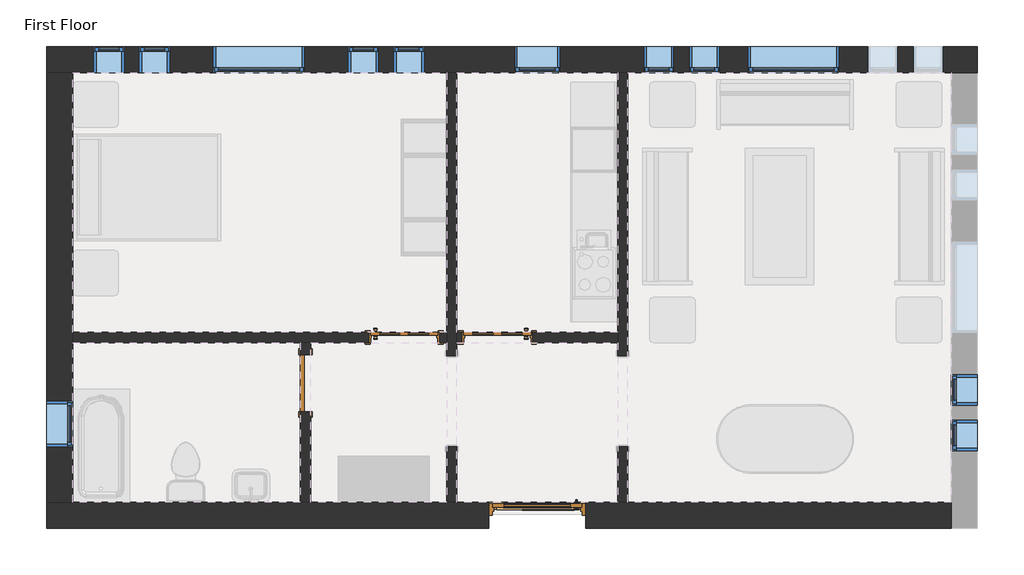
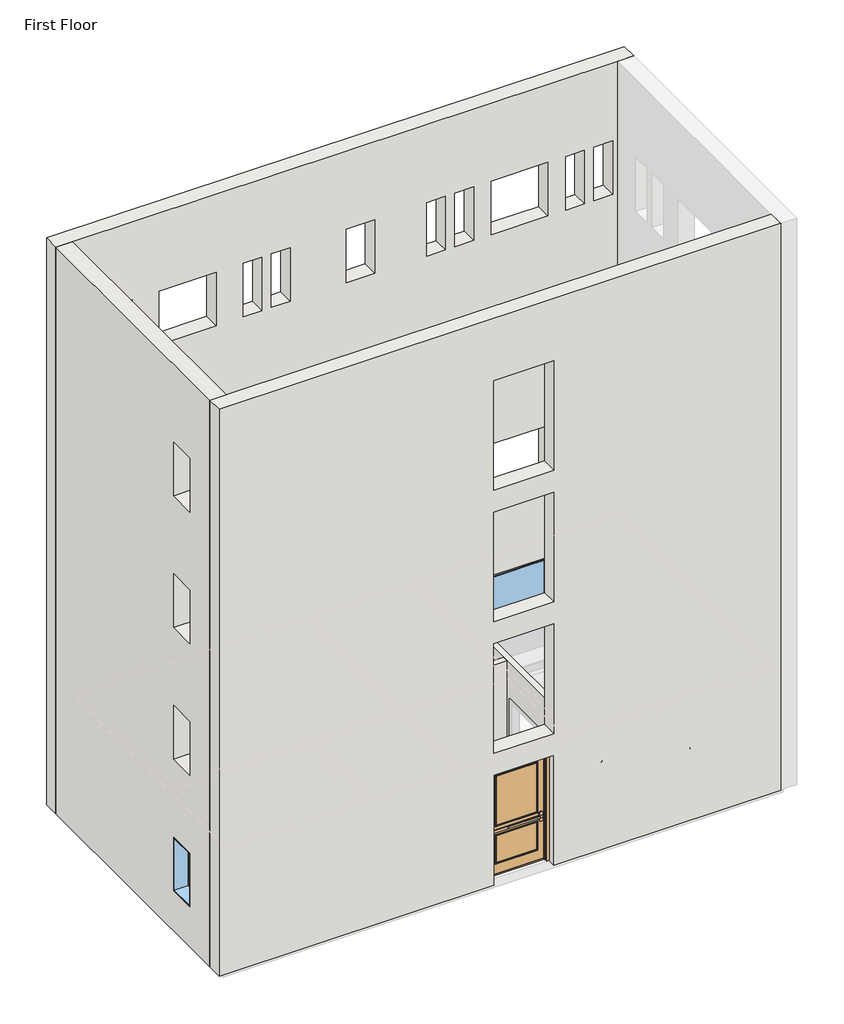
# One storey, part 1 of 3: 12 windows, 7 walls, 4 doors.
"""IFC4 building model written with IfcOpenShell, lengths in millimetres."""

from ifc_helpers import new_model, si_unit, frame, origin, place, context, project, spatial, polyline, outline, extrude, faceted_brep, transform, mapped, element, save
from components import m_door_exterior_single_two_lite_1200_x_2400mm_6ab66c40, m_door_interior_single_4_panel_wood_900_x_2100mm_1f4ed184, m_door_interior_single_4_panel_wood_900_x_2100mm_40914eee, m_single_flush_0762_x_2134mm_0d89e411, m_fixed_0406_x_1220mm_57fee329, m_fixed_0406_x_1220mm_85c28f40, m_fixed_0610_x_1220mm_2c28ef1d, m_fixed_1220_x_1220_e08ff7af

model = new_model("IFC4")

# Units and contexts
model_context = context("Model", 3, world=origin())
ifc_project = project(units=[si_unit("LENGTHUNIT", "METRE", prefix="MILLI")], contexts=[model_context])

# Site, building, storey
site = spatial("IfcSite", under=ifc_project)
building = spatial("IfcBuilding", under=site)
storey = spatial("IfcBuildingStorey", under=building, Name="First Floor", Elevation=0.0)

# Doors
placement = place(None, origin())
m_door_exterior_single_two_lite_1200_x_2400mm_shape = m_door_exterior_single_two_lite_1200_x_2400mm_6ab66c40(model_context)
element("IfcDoor", 1, ObjectType="M_Door-Exterior-Single-Two_Lite : 1200 x 2400mm", at=placement, inside=storey, context=model_context, shape_type="MappedRepresentation", body=[
    mapped(m_door_exterior_single_two_lite_1200_x_2400mm_shape, transform((-11984.0930086, 7923.7170483, 0.0), x_axis=(-1.0, 0.0, 0.0), y_axis=(0.0, -1.0, 0.0), z_axis=(0.0, 0.0, 1.0))),
])
m_door_interior_single_4_panel_wood_900_x_2100mm_shape = m_door_interior_single_4_panel_wood_900_x_2100mm_1f4ed184(model_context)
element("IfcDoor", 2, ObjectType="M_Door-Interior-Single-4_Panel-Wood : 900 x 2100mm", at=placement, inside=storey, context=model_context, shape_type="MappedRepresentation", body=[
    mapped(m_door_interior_single_4_panel_wood_900_x_2100mm_shape, transform((-12518.0930086, 10309.9920483, 0.0), x_axis=(-1.0, 0.0, 0.0), y_axis=(0.0, -1.0, 0.0), z_axis=(0.0, 0.0, 1.0))),
])
m_door_interior_single_4_panel_wood_900_x_2100mm_2_shape = m_door_interior_single_4_panel_wood_900_x_2100mm_40914eee(model_context)
element("IfcDoor", 3, ObjectType="M_Door-Interior-Single-4_Panel-Wood : 900 x 2100mm", at=placement, inside=storey, context=model_context, shape_type="MappedRepresentation", body=[
    mapped(m_door_interior_single_4_panel_wood_900_x_2100mm_2_shape, transform((-13766.0930086, 10309.9920483, 0.0), x_axis=(1.0, 0.0, 0.0), y_axis=(0.0, 1.0, 0.0), z_axis=(0.0, 0.0, 1.0))),
])
m_single_flush_0762_x_2134mm_shape = m_single_flush_0762_x_2134mm_0d89e411(model_context)
element("IfcDoor", 4, ObjectType="M_Single-Flush : 0762 x 2134mm", at=placement, inside=storey, context=model_context, shape_type="MappedRepresentation", body=[
    mapped(m_single_flush_0762_x_2134mm_shape, transform((-15086.0930086, 9696.8170483, 0.0), x_axis=(0.0, 1.0, 0.0), y_axis=(-1.0, 0.0, 0.0), z_axis=(0.0, 0.0, 1.0))),
])

# Walls
element("IfcWall", 5, ObjectType="Exterior - Brick on Mtl. Stud", at=placement, inside=storey, context=model_context, shape_type="Brep", body=[
    faceted_brep([(-18551.8430086, 13851.0670483, 0.0), (-18366.8430086, 13851.0670483, 0.0), (-18201.8430086, 13851.0670483, 0.0), (-13194.8430086, 13851.0670483, 0.0), (-13059.3430086, 13851.0670483, 0.0), (-10908.8430086, 13851.0670483, 0.0), (-10773.3430086, 13851.0670483, 0.0), (-6444.0930086, 13851.0670483, 0.0), (-6279.0930086, 13851.0670483, 0.0), (-6094.0930086, 13851.0670483, 0.0), (-6094.0930086, 13851.0670483, 12915.0), (-6444.0930086, 13851.0670483, 12915.0), (-18201.8430086, 13851.0670483, 12915.0), (-18551.8430086, 13851.0670483, 12915.0), (-11679.0930086, 13851.0670483, 915.0), (-12289.0930086, 13851.0670483, 915.0), (-12289.0930086, 13851.0670483, 2135.0), (-11679.0930086, 13851.0670483, 2135.0), (-15099.8430086, 13851.0670483, 915.0), (-16319.8430086, 13851.0670483, 915.0), (-16319.8430086, 13851.0670483, 2135.0), (-15099.8430086, 13851.0670483, 2135.0), (-7945.0930086, 13851.0670483, 915.0), (-9165.0930086, 13851.0670483, 915.0), (-9165.0930086, 13851.0670483, 2135.0), (-7945.0930086, 13851.0670483, 2135.0), (-17919.4430086, 13851.0670483, 915.0), (-17919.4430086, 13851.0670483, 2135.0), (-17513.4430086, 13851.0670483, 2135.0), (-17513.4430086, 13851.0670483, 915.0), (-17309.8430086, 13851.0670483, 915.0), (-17309.8430086, 13851.0670483, 2135.0), (-16903.8430086, 13851.0670483, 2135.0), (-16903.8430086, 13851.0670483, 915.0), (-14109.8430086, 13851.0670483, 915.0), (-14515.8430086, 13851.0670483, 915.0), (-14515.8430086, 13851.0670483, 2135.0), (-14109.8430086, 13851.0670483, 2135.0), (-13500.2430086, 13851.0670483, 915.0), (-13906.2430086, 13851.0670483, 915.0), (-13906.2430086, 13851.0670483, 2135.0), (-13500.2430086, 13851.0670483, 2135.0), (-10155.0930086, 13851.0670483, 915.0), (-10561.0930086, 13851.0670483, 915.0), (-10561.0930086, 13851.0670483, 2135.0), (-10155.0930086, 13851.0670483, 2135.0), (-9545.4930086, 13851.0670483, 915.0), (-9951.4930086, 13851.0670483, 915.0), (-9951.4930086, 13851.0670483, 2135.0), (-9545.4930086, 13851.0670483, 2135.0), (-6955.0930086, 13851.0670483, 915.0), (-6955.0930086, 13851.0670483, 2135.0), (-6549.0930086, 13851.0670483, 2135.0), (-6549.0930086, 13851.0670483, 915.0), (-7564.6930086, 13851.0670483, 915.0), (-7564.6930086, 13851.0670483, 2135.0), (-7158.6930086, 13851.0670483, 2135.0), (-7158.6930086, 13851.0670483, 915.0), (-6955.0930086, 13851.0670483, 9915.0), (-6955.0930086, 13851.0670483, 11135.0), (-6549.0930086, 13851.0670483, 11135.0), (-6549.0930086, 13851.0670483, 9915.0), (-7564.6930086, 13851.0670483, 9915.0), (-7564.6930086, 13851.0670483, 11135.0), (-7158.6930086, 13851.0670483, 11135.0), (-7158.6930086, 13851.0670483, 9915.0), (-10155.0930086, 13851.0670483, 9915.0), (-10561.0930086, 13851.0670483, 9915.0), (-10561.0930086, 13851.0670483, 11135.0), (-10155.0930086, 13851.0670483, 11135.0), (-9545.4930086, 13851.0670483, 9915.0), (-9951.4930086, 13851.0670483, 9915.0), (-9951.4930086, 13851.0670483, 11135.0), (-9545.4930086, 13851.0670483, 11135.0), (-14109.8430086, 13851.0670483, 9915.0), (-14515.8430086, 13851.0670483, 9915.0), (-14515.8430086, 13851.0670483, 11135.0), (-14109.8430086, 13851.0670483, 11135.0), (-13500.2430086, 13851.0670483, 9915.0), (-13906.2430086, 13851.0670483, 9915.0), (-13906.2430086, 13851.0670483, 11135.0), (-13500.2430086, 13851.0670483, 11135.0), (-17309.8430086, 13851.0670483, 9915.0), (-17309.8430086, 13851.0670483, 11135.0), (-16903.8430086, 13851.0670483, 11135.0), (-16903.8430086, 13851.0670483, 9915.0), (-17919.4430086, 13851.0670483, 9915.0), (-17919.4430086, 13851.0670483, 11135.0), (-17513.4430086, 13851.0670483, 11135.0), (-17513.4430086, 13851.0670483, 9915.0), (-7945.0930086, 13851.0670483, 9915.0), (-9165.0930086, 13851.0670483, 9915.0), (-9165.0930086, 13851.0670483, 11135.0), (-7945.0930086, 13851.0670483, 11135.0), (-15099.8430086, 13851.0670483, 9915.0), (-16319.8430086, 13851.0670483, 9915.0), (-16319.8430086, 13851.0670483, 11135.0), (-15099.8430086, 13851.0670483, 11135.0), (-11679.0930086, 13851.0670483, 9915.0), (-12289.0930086, 13851.0670483, 9915.0), (-12289.0930086, 13851.0670483, 11135.0), (-11679.0930086, 13851.0670483, 11135.0), (-6955.0930086, 13851.0670483, 3915.0), (-6955.0930086, 13851.0670483, 5135.0), (-6549.0930086, 13851.0670483, 5135.0), (-6549.0930086, 13851.0670483, 3915.0), (-7564.6930086, 13851.0670483, 3915.0), (-7564.6930086, 13851.0670483, 5135.0), (-7158.6930086, 13851.0670483, 5135.0), (-7158.6930086, 13851.0670483, 3915.0), (-10155.0930086, 13851.0670483, 3915.0), (-10561.0930086, 13851.0670483, 3915.0), (-10561.0930086, 13851.0670483, 5135.0), (-10155.0930086, 13851.0670483, 5135.0), (-9545.4930086, 13851.0670483, 3915.0), (-9951.4930086, 13851.0670483, 3915.0), (-9951.4930086, 13851.0670483, 5135.0), (-9545.4930086, 13851.0670483, 5135.0), (-14109.8430086, 13851.0670483, 3915.0), (-14515.8430086, 13851.0670483, 3915.0), (-14515.8430086, 13851.0670483, 5135.0), (-14109.8430086, 13851.0670483, 5135.0), (-13500.2430086, 13851.0670483, 3915.0), (-13906.2430086, 13851.0670483, 3915.0), (-13906.2430086, 13851.0670483, 5135.0), (-13500.2430086, 13851.0670483, 5135.0), (-17309.8430086, 13851.0670483, 3915.0), (-17309.8430086, 13851.0670483, 5135.0), (-16903.8430086, 13851.0670483, 5135.0), (-16903.8430086, 13851.0670483, 3915.0), (-17919.4430086, 13851.0670483, 3915.0), (-17919.4430086, 13851.0670483, 5135.0), (-17513.4430086, 13851.0670483, 5135.0), (-17513.4430086, 13851.0670483, 3915.0), (-7945.0930086, 13851.0670483, 3915.0), (-9165.0930086, 13851.0670483, 3915.0), (-9165.0930086, 13851.0670483, 5135.0), (-7945.0930086, 13851.0670483, 5135.0), (-15099.8430086, 13851.0670483, 3915.0), (-16319.8430086, 13851.0670483, 3915.0), (-16319.8430086, 13851.0670483, 5135.0), (-15099.8430086, 13851.0670483, 5135.0), (-11679.0930086, 13851.0670483, 3915.0), (-12289.0930086, 13851.0670483, 3915.0), (-12289.0930086, 13851.0670483, 5135.0), (-11679.0930086, 13851.0670483, 5135.0), (-6955.0930086, 13851.0670483, 6915.0), (-6955.0930086, 13851.0670483, 8135.0), (-6549.0930086, 13851.0670483, 8135.0), (-6549.0930086, 13851.0670483, 6915.0), (-7564.6930086, 13851.0670483, 6915.0), (-7564.6930086, 13851.0670483, 8135.0), (-7158.6930086, 13851.0670483, 8135.0), (-7158.6930086, 13851.0670483, 6915.0), (-10155.0930086, 13851.0670483, 6915.0), (-10561.0930086, 13851.0670483, 6915.0), (-10561.0930086, 13851.0670483, 8135.0), (-10155.0930086, 13851.0670483, 8135.0), (-9545.4930086, 13851.0670483, 6915.0), (-9951.4930086, 13851.0670483, 6915.0), (-9951.4930086, 13851.0670483, 8135.0), (-9545.4930086, 13851.0670483, 8135.0), (-14109.8430086, 13851.0670483, 6915.0), (-14515.8430086, 13851.0670483, 6915.0), (-14515.8430086, 13851.0670483, 8135.0), (-14109.8430086, 13851.0670483, 8135.0), (-13500.2430086, 13851.0670483, 6915.0), (-13906.2430086, 13851.0670483, 6915.0), (-13906.2430086, 13851.0670483, 8135.0), (-13500.2430086, 13851.0670483, 8135.0), (-17309.8430086, 13851.0670483, 6915.0), (-17309.8430086, 13851.0670483, 8135.0), (-16903.8430086, 13851.0670483, 8135.0), (-16903.8430086, 13851.0670483, 6915.0), (-17919.4430086, 13851.0670483, 6915.0), (-17919.4430086, 13851.0670483, 8135.0), (-17513.4430086, 13851.0670483, 8135.0), (-17513.4430086, 13851.0670483, 6915.0), (-7945.0930086, 13851.0670483, 6915.0), (-9165.0930086, 13851.0670483, 6915.0), (-9165.0930086, 13851.0670483, 8135.0), (-7945.0930086, 13851.0670483, 8135.0), (-15099.8430086, 13851.0670483, 6915.0), (-16319.8430086, 13851.0670483, 6915.0), (-16319.8430086, 13851.0670483, 8135.0), (-15099.8430086, 13851.0670483, 8135.0), (-11679.0930086, 13851.0670483, 6915.0), (-12289.0930086, 13851.0670483, 6915.0), (-12289.0930086, 13851.0670483, 8135.0), (-11679.0930086, 13851.0670483, 8135.0), (-18551.8430086, 14201.0670483, 0.0), (-18551.8430086, 14201.0670483, 12915.0), (-6094.0930086, 14201.0670483, 12915.0), (-6094.0930086, 14201.0670483, 0.0), (-6279.0930086, 14201.0670483, 0.0), (-18366.8430086, 14201.0670483, 0.0), (-11679.0930086, 14201.0670483, 915.0), (-11679.0930086, 14201.0670483, 2135.0), (-12289.0930086, 14201.0670483, 2135.0), (-12289.0930086, 14201.0670483, 915.0), (-15099.8430086, 14201.0670483, 915.0), (-15099.8430086, 14201.0670483, 2135.0), (-16319.8430086, 14201.0670483, 2135.0), (-16319.8430086, 14201.0670483, 915.0), (-7945.0930086, 14201.0670483, 915.0), (-7945.0930086, 14201.0670483, 2135.0), (-9165.0930086, 14201.0670483, 2135.0), (-9165.0930086, 14201.0670483, 915.0), (-17919.4430086, 14201.0670483, 915.0), (-17513.4430086, 14201.0670483, 915.0), (-17513.4430086, 14201.0670483, 2135.0), (-17919.4430086, 14201.0670483, 2135.0), (-17309.8430086, 14201.0670483, 915.0), (-16903.8430086, 14201.0670483, 915.0), (-16903.8430086, 14201.0670483, 2135.0), (-17309.8430086, 14201.0670483, 2135.0), (-14109.8430086, 14201.0670483, 915.0), (-14109.8430086, 14201.0670483, 2135.0), (-14515.8430086, 14201.0670483, 2135.0), (-14515.8430086, 14201.0670483, 915.0), (-13500.2430086, 14201.0670483, 915.0), (-13500.2430086, 14201.0670483, 2135.0), (-13906.2430086, 14201.0670483, 2135.0), (-13906.2430086, 14201.0670483, 915.0), (-10155.0930086, 14201.0670483, 915.0), (-10155.0930086, 14201.0670483, 2135.0), (-10561.0930086, 14201.0670483, 2135.0), (-10561.0930086, 14201.0670483, 915.0), (-9545.4930086, 14201.0670483, 915.0), (-9545.4930086, 14201.0670483, 2135.0), (-9951.4930086, 14201.0670483, 2135.0), (-9951.4930086, 14201.0670483, 915.0), (-6955.0930086, 14201.0670483, 915.0), (-6549.0930086, 14201.0670483, 915.0), (-6549.0930086, 14201.0670483, 2135.0), (-6955.0930086, 14201.0670483, 2135.0), (-7564.6930086, 14201.0670483, 915.0), (-7158.6930086, 14201.0670483, 915.0), (-7158.6930086, 14201.0670483, 2135.0), (-7564.6930086, 14201.0670483, 2135.0), (-6955.0930086, 14201.0670483, 9915.0), (-6549.0930086, 14201.0670483, 9915.0), (-6549.0930086, 14201.0670483, 11135.0), (-6955.0930086, 14201.0670483, 11135.0), (-7564.6930086, 14201.0670483, 9915.0), (-7158.6930086, 14201.0670483, 9915.0), (-7158.6930086, 14201.0670483, 11135.0), (-7564.6930086, 14201.0670483, 11135.0), (-10155.0930086, 14201.0670483, 9915.0), (-10155.0930086, 14201.0670483, 11135.0), (-10561.0930086, 14201.0670483, 11135.0), (-10561.0930086, 14201.0670483, 9915.0), (-9545.4930086, 14201.0670483, 9915.0), (-9545.4930086, 14201.0670483, 11135.0), (-9951.4930086, 14201.0670483, 11135.0), (-9951.4930086, 14201.0670483, 9915.0), (-14109.8430086, 14201.0670483, 9915.0), (-14109.8430086, 14201.0670483, 11135.0), (-14515.8430086, 14201.0670483, 11135.0), (-14515.8430086, 14201.0670483, 9915.0), (-13500.2430086, 14201.0670483, 9915.0), (-13500.2430086, 14201.0670483, 11135.0), (-13906.2430086, 14201.0670483, 11135.0), (-13906.2430086, 14201.0670483, 9915.0), (-17309.8430086, 14201.0670483, 9915.0), (-16903.8430086, 14201.0670483, 9915.0), (-16903.8430086, 14201.0670483, 11135.0), (-17309.8430086, 14201.0670483, 11135.0), (-17919.4430086, 14201.0670483, 9915.0), (-17513.4430086, 14201.0670483, 9915.0), (-17513.4430086, 14201.0670483, 11135.0), (-17919.4430086, 14201.0670483, 11135.0), (-7945.0930086, 14201.0670483, 9915.0), (-7945.0930086, 14201.0670483, 11135.0), (-9165.0930086, 14201.0670483, 11135.0), (-9165.0930086, 14201.0670483, 9915.0), (-15099.8430086, 14201.0670483, 9915.0), (-15099.8430086, 14201.0670483, 11135.0), (-16319.8430086, 14201.0670483, 11135.0), (-16319.8430086, 14201.0670483, 9915.0), (-11679.0930086, 14201.0670483, 9915.0), (-11679.0930086, 14201.0670483, 11135.0), (-12289.0930086, 14201.0670483, 11135.0), (-12289.0930086, 14201.0670483, 9915.0), (-6955.0930086, 14201.0670483, 3915.0), (-6549.0930086, 14201.0670483, 3915.0), (-6549.0930086, 14201.0670483, 5135.0), (-6955.0930086, 14201.0670483, 5135.0), (-7564.6930086, 14201.0670483, 3915.0), (-7158.6930086, 14201.0670483, 3915.0), (-7158.6930086, 14201.0670483, 5135.0), (-7564.6930086, 14201.0670483, 5135.0), (-10155.0930086, 14201.0670483, 3915.0), (-10155.0930086, 14201.0670483, 5135.0), (-10561.0930086, 14201.0670483, 5135.0), (-10561.0930086, 14201.0670483, 3915.0), (-9545.4930086, 14201.0670483, 3915.0), (-9545.4930086, 14201.0670483, 5135.0), (-9951.4930086, 14201.0670483, 5135.0), (-9951.4930086, 14201.0670483, 3915.0), (-14109.8430086, 14201.0670483, 3915.0), (-14109.8430086, 14201.0670483, 5135.0), (-14515.8430086, 14201.0670483, 5135.0), (-14515.8430086, 14201.0670483, 3915.0), (-13500.2430086, 14201.0670483, 3915.0), (-13500.2430086, 14201.0670483, 5135.0), (-13906.2430086, 14201.0670483, 5135.0), (-13906.2430086, 14201.0670483, 3915.0), (-17309.8430086, 14201.0670483, 3915.0), (-16903.8430086, 14201.0670483, 3915.0), (-16903.8430086, 14201.0670483, 5135.0), (-17309.8430086, 14201.0670483, 5135.0), (-17919.4430086, 14201.0670483, 3915.0), (-17513.4430086, 14201.0670483, 3915.0), (-17513.4430086, 14201.0670483, 5135.0), (-17919.4430086, 14201.0670483, 5135.0), (-7945.0930086, 14201.0670483, 3915.0), (-7945.0930086, 14201.0670483, 5135.0), (-9165.0930086, 14201.0670483, 5135.0), (-9165.0930086, 14201.0670483, 3915.0), (-15099.8430086, 14201.0670483, 3915.0), (-15099.8430086, 14201.0670483, 5135.0), (-16319.8430086, 14201.0670483, 5135.0), (-16319.8430086, 14201.0670483, 3915.0), (-11679.0930086, 14201.0670483, 3915.0), (-11679.0930086, 14201.0670483, 5135.0), (-12289.0930086, 14201.0670483, 5135.0), (-12289.0930086, 14201.0670483, 3915.0), (-6955.0930086, 14201.0670483, 6915.0), (-6549.0930086, 14201.0670483, 6915.0), (-6549.0930086, 14201.0670483, 8135.0), (-6955.0930086, 14201.0670483, 8135.0), (-7564.6930086, 14201.0670483, 6915.0), (-7158.6930086, 14201.0670483, 6915.0), (-7158.6930086, 14201.0670483, 8135.0), (-7564.6930086, 14201.0670483, 8135.0), (-10155.0930086, 14201.0670483, 6915.0), (-10155.0930086, 14201.0670483, 8135.0), (-10561.0930086, 14201.0670483, 8135.0), (-10561.0930086, 14201.0670483, 6915.0), (-9545.4930086, 14201.0670483, 6915.0), (-9545.4930086, 14201.0670483, 8135.0), (-9951.4930086, 14201.0670483, 8135.0), (-9951.4930086, 14201.0670483, 6915.0), (-14109.8430086, 14201.0670483, 6915.0), (-14109.8430086, 14201.0670483, 8135.0), (-14515.8430086, 14201.0670483, 8135.0), (-14515.8430086, 14201.0670483, 6915.0), (-13500.2430086, 14201.0670483, 6915.0), (-13500.2430086, 14201.0670483, 8135.0), (-13906.2430086, 14201.0670483, 8135.0), (-13906.2430086, 14201.0670483, 6915.0), (-17309.8430086, 14201.0670483, 6915.0), (-16903.8430086, 14201.0670483, 6915.0), (-16903.8430086, 14201.0670483, 8135.0), (-17309.8430086, 14201.0670483, 8135.0), (-17919.4430086, 14201.0670483, 6915.0), (-17513.4430086, 14201.0670483, 6915.0), (-17513.4430086, 14201.0670483, 8135.0), (-17919.4430086, 14201.0670483, 8135.0), (-7945.0930086, 14201.0670483, 6915.0), (-7945.0930086, 14201.0670483, 8135.0), (-9165.0930086, 14201.0670483, 8135.0), (-9165.0930086, 14201.0670483, 6915.0), (-15099.8430086, 14201.0670483, 6915.0), (-15099.8430086, 14201.0670483, 8135.0), (-16319.8430086, 14201.0670483, 8135.0), (-16319.8430086, 14201.0670483, 6915.0), (-11679.0930086, 14201.0670483, 6915.0), (-11679.0930086, 14201.0670483, 8135.0), (-12289.0930086, 14201.0670483, 8135.0), (-12289.0930086, 14201.0670483, 6915.0), (-6094.0930086, 14016.0670483, 0.0), (-18551.8430086, 14016.0670483, 0.0), (-18366.8430086, 14016.0670483, 0.0), (-6279.0930086, 14016.0670483, 0.0)], [[[0, 1, 2, 3, 4, 5, 6, 7, 8, 9, 10, 11, 12, 13], [14, 15, 16, 17], [18, 19, 20, 21], [22, 23, 24, 25], [26, 27, 28, 29], [30, 31, 32, 33], [34, 35, 36, 37], [38, 39, 40, 41], [42, 43, 44, 45], [46, 47, 48, 49], [50, 51, 52, 53], [54, 55, 56, 57], [58, 59, 60, 61], [62, 63, 64, 65], [66, 67, 68, 69], [70, 71, 72, 73], [74, 75, 76, 77], [78, 79, 80, 81], [82, 83, 84, 85], [86, 87, 88, 89], [90, 91, 92, 93], [94, 95, 96, 97], [98, 99, 100, 101], [102, 103, 104, 105], [106, 107, 108, 109], [110, 111, 112, 113], [114, 115, 116, 117], [118, 119, 120, 121], [122, 123, 124, 125], [126, 127, 128, 129], [130, 131, 132, 133], [134, 135, 136, 137], [138, 139, 140, 141], [142, 143, 144, 145], [146, 147, 148, 149], [150, 151, 152, 153], [154, 155, 156, 157], [158, 159, 160, 161], [162, 163, 164, 165], [166, 167, 168, 169], [170, 171, 172, 173], [174, 175, 176, 177], [178, 179, 180, 181], [182, 183, 184, 185], [186, 187, 188, 189]], [[190, 191, 192, 193, 194, 195], [196, 197, 198, 199], [200, 201, 202, 203], [204, 205, 206, 207], [208, 209, 210, 211], [212, 213, 214, 215], [216, 217, 218, 219], [220, 221, 222, 223], [224, 225, 226, 227], [228, 229, 230, 231], [232, 233, 234, 235], [236, 237, 238, 239], [240, 241, 242, 243], [244, 245, 246, 247], [248, 249, 250, 251], [252, 253, 254, 255], [256, 257, 258, 259], [260, 261, 262, 263], [264, 265, 266, 267], [268, 269, 270, 271], [272, 273, 274, 275], [276, 277, 278, 279], [280, 281, 282, 283], [284, 285, 286, 287], [288, 289, 290, 291], [292, 293, 294, 295], [296, 297, 298, 299], [300, 301, 302, 303], [304, 305, 306, 307], [308, 309, 310, 311], [312, 313, 314, 315], [316, 317, 318, 319], [320, 321, 322, 323], [324, 325, 326, 327], [328, 329, 330, 331], [332, 333, 334, 335], [336, 337, 338, 339], [340, 341, 342, 343], [344, 345, 346, 347], [348, 349, 350, 351], [352, 353, 354, 355], [356, 357, 358, 359], [360, 361, 362, 363], [364, 365, 366, 367], [368, 369, 370, 371]], [[13, 12, 11, 10, 192, 191]], [[10, 9, 372, 193, 192]], [[0, 13, 191, 190, 373]], [[197, 196, 14, 17]], [[198, 197, 17, 16]], [[199, 198, 16, 15]], [[196, 199, 15, 14]], [[201, 200, 18, 21]], [[202, 201, 21, 20]], [[203, 202, 20, 19]], [[200, 203, 19, 18]], [[205, 204, 22, 25]], [[206, 205, 25, 24]], [[207, 206, 24, 23]], [[204, 207, 23, 22]], [[27, 26, 208, 211]], [[28, 27, 211, 210]], [[29, 28, 210, 209]], [[26, 29, 209, 208]], [[31, 30, 212, 215]], [[32, 31, 215, 214]], [[33, 32, 214, 213]], [[30, 33, 213, 212]], [[217, 216, 34, 37]], [[218, 217, 37, 36]], [[219, 218, 36, 35]], [[216, 219, 35, 34]], [[221, 220, 38, 41]], [[222, 221, 41, 40]], [[223, 222, 40, 39]], [[220, 223, 39, 38]], [[225, 224, 42, 45]], [[226, 225, 45, 44]], [[227, 226, 44, 43]], [[224, 227, 43, 42]], [[229, 228, 46, 49]], [[230, 229, 49, 48]], [[231, 230, 48, 47]], [[228, 231, 47, 46]], [[51, 50, 232, 235]], [[52, 51, 235, 234]], [[53, 52, 234, 233]], [[50, 53, 233, 232]], [[55, 54, 236, 239]], [[56, 55, 239, 238]], [[57, 56, 238, 237]], [[54, 57, 237, 236]], [[1, 0, 373, 374]], [[373, 190, 195, 374]], [[9, 8, 375, 372]], [[195, 194, 375, 374]], [[194, 193, 372, 375]], [[8, 7, 6, 5, 4, 3, 2, 1, 374, 375]], [[59, 58, 240, 243]], [[60, 59, 243, 242]], [[61, 60, 242, 241]], [[58, 61, 241, 240]], [[63, 62, 244, 247]], [[64, 63, 247, 246]], [[65, 64, 246, 245]], [[62, 65, 245, 244]], [[249, 248, 66, 69]], [[250, 249, 69, 68]], [[251, 250, 68, 67]], [[248, 251, 67, 66]], [[253, 252, 70, 73]], [[254, 253, 73, 72]], [[255, 254, 72, 71]], [[252, 255, 71, 70]], [[257, 256, 74, 77]], [[258, 257, 77, 76]], [[259, 258, 76, 75]], [[256, 259, 75, 74]], [[261, 260, 78, 81]], [[262, 261, 81, 80]], [[263, 262, 80, 79]], [[260, 263, 79, 78]], [[83, 82, 264, 267]], [[84, 83, 267, 266]], [[85, 84, 266, 265]], [[82, 85, 265, 264]], [[87, 86, 268, 271]], [[88, 87, 271, 270]], [[89, 88, 270, 269]], [[86, 89, 269, 268]], [[273, 272, 90, 93]], [[274, 273, 93, 92]], [[275, 274, 92, 91]], [[272, 275, 91, 90]], [[277, 276, 94, 97]], [[278, 277, 97, 96]], [[279, 278, 96, 95]], [[276, 279, 95, 94]], [[281, 280, 98, 101]], [[282, 281, 101, 100]], [[283, 282, 100, 99]], [[280, 283, 99, 98]], [[103, 102, 284, 287]], [[104, 103, 287, 286]], [[105, 104, 286, 285]], [[102, 105, 285, 284]], [[107, 106, 288, 291]], [[108, 107, 291, 290]], [[109, 108, 290, 289]], [[106, 109, 289, 288]], [[293, 292, 110, 113]], [[294, 293, 113, 112]], [[295, 294, 112, 111]], [[292, 295, 111, 110]], [[297, 296, 114, 117]], [[298, 297, 117, 116]], [[299, 298, 116, 115]], [[296, 299, 115, 114]], [[301, 300, 118, 121]], [[302, 301, 121, 120]], [[303, 302, 120, 119]], [[300, 303, 119, 118]], [[305, 304, 122, 125]], [[306, 305, 125, 124]], [[307, 306, 124, 123]], [[304, 307, 123, 122]], [[127, 126, 308, 311]], [[128, 127, 311, 310]], [[129, 128, 310, 309]], [[126, 129, 309, 308]], [[131, 130, 312, 315]], [[132, 131, 315, 314]], [[133, 132, 314, 313]], [[130, 133, 313, 312]], [[317, 316, 134, 137]], [[318, 317, 137, 136]], [[319, 318, 136, 135]], [[316, 319, 135, 134]], [[321, 320, 138, 141]], [[322, 321, 141, 140]], [[323, 322, 140, 139]], [[320, 323, 139, 138]], [[325, 324, 142, 145]], [[326, 325, 145, 144]], [[327, 326, 144, 143]], [[324, 327, 143, 142]], [[147, 146, 328, 331]], [[148, 147, 331, 330]], [[149, 148, 330, 329]], [[146, 149, 329, 328]], [[151, 150, 332, 335]], [[152, 151, 335, 334]], [[153, 152, 334, 333]], [[150, 153, 333, 332]], [[337, 336, 154, 157]], [[338, 337, 157, 156]], [[339, 338, 156, 155]], [[336, 339, 155, 154]], [[341, 340, 158, 161]], [[342, 341, 161, 160]], [[343, 342, 160, 159]], [[340, 343, 159, 158]], [[345, 344, 162, 165]], [[346, 345, 165, 164]], [[347, 346, 164, 163]], [[344, 347, 163, 162]], [[349, 348, 166, 169]], [[350, 349, 169, 168]], [[351, 350, 168, 167]], [[348, 351, 167, 166]], [[171, 170, 352, 355]], [[172, 171, 355, 354]], [[173, 172, 354, 353]], [[170, 173, 353, 352]], [[175, 174, 356, 359]], [[176, 175, 359, 358]], [[177, 176, 358, 357]], [[174, 177, 357, 356]], [[361, 360, 178, 181]], [[362, 361, 181, 180]], [[363, 362, 180, 179]], [[360, 363, 179, 178]], [[365, 364, 182, 185]], [[366, 365, 185, 184]], [[367, 366, 184, 183]], [[364, 367, 183, 182]], [[369, 368, 186, 189]], [[370, 369, 189, 188]], [[371, 370, 188, 187]], [[368, 371, 187, 186]]]),
])
element("IfcWall", 6, ObjectType="Exterior - Brick on Mtl. Stud", at=placement, inside=storey, context=model_context, shape_type="Brep", body=[
    faceted_brep([(-18551.8430086, 8105.0670483, 12915.0), (-18201.8430086, 8105.0670483, 12915.0), (-6444.0930086, 8105.0670483, 12915.0), (-6444.0930086, 8105.0670483, 0.0), (-10773.3430086, 8105.0670483, 0.0), (-10908.8430086, 8105.0670483, 0.0), (-11334.0930086, 8105.0670483, 0.0), (-11334.0930086, 8105.0670483, 2500.0), (-12634.0930086, 8105.0670483, 2500.0), (-12634.0930086, 8105.0670483, 0.0), (-13059.3430086, 8105.0670483, 0.0), (-13194.8430086, 8105.0670483, 0.0), (-15018.3430086, 8105.0670483, 0.0), (-15153.8430086, 8105.0670483, 0.0), (-18201.8430086, 8105.0670483, 0.0), (-18551.8430086, 8105.0670483, 0.0), (-11334.0930086, 8105.0670483, 9000.0), (-11334.0930086, 8105.0670483, 11500.0), (-12634.0930086, 8105.0670483, 11500.0), (-12634.0930086, 8105.0670483, 9000.0), (-11334.0930086, 8105.0670483, 3000.0), (-11334.0930086, 8105.0670483, 5500.0), (-12634.0930086, 8105.0670483, 5500.0), (-12634.0930086, 8105.0670483, 3000.0), (-11334.0930086, 8105.0670483, 6000.0), (-11334.0930086, 8105.0670483, 8500.0), (-12634.0930086, 8105.0670483, 8500.0), (-12634.0930086, 8105.0670483, 6000.0), (-6444.0930086, 7755.0670483, 12915.0), (-18551.8430086, 7755.0670483, 12915.0), (-18551.8430086, 7755.0670483, 0.0), (-12634.0930086, 7755.0670483, 0.0), (-12634.0930086, 7755.0670483, 2500.0), (-11334.0930086, 7755.0670483, 2500.0), (-11334.0930086, 7755.0670483, 0.0), (-6444.0930086, 7755.0670483, 0.0), (-11334.0930086, 7755.0670483, 9000.0), (-12634.0930086, 7755.0670483, 9000.0), (-12634.0930086, 7755.0670483, 11500.0), (-11334.0930086, 7755.0670483, 11500.0), (-11334.0930086, 7755.0670483, 3000.0), (-12634.0930086, 7755.0670483, 3000.0), (-12634.0930086, 7755.0670483, 5500.0), (-11334.0930086, 7755.0670483, 5500.0), (-11334.0930086, 7755.0670483, 6000.0), (-12634.0930086, 7755.0670483, 6000.0), (-12634.0930086, 7755.0670483, 8500.0), (-11334.0930086, 7755.0670483, 8500.0)], [[[0, 1, 2, 3, 4, 5, 6, 7, 8, 9, 10, 11, 12, 13, 14, 15], [16, 17, 18, 19], [20, 21, 22, 23], [24, 25, 26, 27]], [[28, 29, 30, 31, 32, 33, 34, 35], [36, 37, 38, 39], [40, 41, 42, 43], [44, 45, 46, 47]], [[3, 35, 34, 6, 5, 4]], [[30, 15, 14, 13, 12, 11, 10, 9, 31]], [[2, 1, 0, 29, 28]], [[3, 2, 28, 35]], [[0, 15, 30, 29]], [[8, 32, 31, 9]], [[32, 8, 7, 33]], [[33, 7, 6, 34]], [[17, 16, 36, 39]], [[18, 17, 39, 38]], [[19, 18, 38, 37]], [[16, 19, 37, 36]], [[21, 20, 40, 43]], [[22, 21, 43, 42]], [[23, 22, 42, 41]], [[20, 23, 41, 40]], [[25, 24, 44, 47]], [[26, 25, 47, 46]], [[27, 26, 46, 45]], [[24, 27, 45, 44]]]),
])
element("IfcWall", 7, ObjectType="Exterior - Brick on Mtl. Stud", at=placement, inside=storey, context=model_context, shape_type="Brep", body=[
    faceted_brep([(-18201.8430086, 8105.0670483, 0.0), (-18201.8430086, 10239.0670483, 0.0), (-18201.8430086, 10374.5670483, 0.0), (-18201.8430086, 13851.0670483, 0.0), (-18201.8430086, 13851.0670483, 12915.0), (-18201.8430086, 8105.0670483, 12915.0), (-18201.8430086, 9455.0670483, 915.0), (-18201.8430086, 8845.0670483, 915.0), (-18201.8430086, 8845.0670483, 2135.0), (-18201.8430086, 9455.0670483, 2135.0), (-18201.8430086, 9455.0670483, 9915.0), (-18201.8430086, 8845.0670483, 9915.0), (-18201.8430086, 8845.0670483, 11135.0), (-18201.8430086, 9455.0670483, 11135.0), (-18201.8430086, 9455.0670483, 3915.0), (-18201.8430086, 8845.0670483, 3915.0), (-18201.8430086, 8845.0670483, 5135.0), (-18201.8430086, 9455.0670483, 5135.0), (-18201.8430086, 9455.0670483, 6915.0), (-18201.8430086, 8845.0670483, 6915.0), (-18201.8430086, 8845.0670483, 8135.0), (-18201.8430086, 9455.0670483, 8135.0), (-18551.8430086, 8105.0670483, 0.0), (-18551.8430086, 8105.0670483, 12915.0), (-18551.8430086, 13851.0670483, 12915.0), (-18551.8430086, 13851.0670483, 0.0), (-18551.8430086, 9455.0670483, 915.0), (-18551.8430086, 9455.0670483, 2135.0), (-18551.8430086, 8845.0670483, 2135.0), (-18551.8430086, 8845.0670483, 915.0), (-18551.8430086, 9455.0670483, 9915.0), (-18551.8430086, 9455.0670483, 11135.0), (-18551.8430086, 8845.0670483, 11135.0), (-18551.8430086, 8845.0670483, 9915.0), (-18551.8430086, 9455.0670483, 3915.0), (-18551.8430086, 9455.0670483, 5135.0), (-18551.8430086, 8845.0670483, 5135.0), (-18551.8430086, 8845.0670483, 3915.0), (-18551.8430086, 9455.0670483, 6915.0), (-18551.8430086, 9455.0670483, 8135.0), (-18551.8430086, 8845.0670483, 8135.0), (-18551.8430086, 8845.0670483, 6915.0), (-18366.8430086, 8105.0670483, 0.0), (-18366.8430086, 13851.0670483, 0.0)], [[[0, 1, 2, 3, 4, 5], [6, 7, 8, 9], [10, 11, 12, 13], [14, 15, 16, 17], [18, 19, 20, 21]], [[22, 23, 24, 25], [26, 27, 28, 29], [30, 31, 32, 33], [34, 35, 36, 37], [38, 39, 40, 41]], [[5, 4, 24, 23]], [[0, 5, 23, 22, 42]], [[4, 3, 43, 25, 24]], [[27, 26, 6, 9]], [[28, 27, 9, 8]], [[29, 28, 8, 7]], [[26, 29, 7, 6]], [[42, 22, 25, 43]], [[3, 2, 1, 0, 42, 43]], [[31, 30, 10, 13]], [[32, 31, 13, 12]], [[33, 32, 12, 11]], [[30, 33, 11, 10]], [[35, 34, 14, 17]], [[36, 35, 17, 16]], [[37, 36, 16, 15]], [[34, 37, 15, 14]], [[39, 38, 18, 21]], [[40, 39, 21, 20]], [[41, 40, 20, 19]], [[38, 41, 19, 18]]]),
])
element("IfcWall", 8, ObjectType="Interior - 135mm Partition (2-hr)", at=placement, inside=storey, context=model_context, shape_type="Brep", body=[
    faceted_brep([(-10908.8430086, 13851.0670483, 0.0), (-10908.8430086, 10374.5670483, 0.0), (-10908.8430086, 10239.0670483, 0.0), (-10908.8430086, 10064.0670483, 0.0), (-10908.8430086, 10064.0670483, 2134.0), (-10908.8430086, 8844.0670483, 2134.0), (-10908.8430086, 8844.0670483, 0.0), (-10908.8430086, 8105.0670483, 0.0), (-10908.8430086, 8105.0670483, 3000.0), (-10908.8430086, 10239.0670483, 3000.0), (-10908.8430086, 10374.5670483, 3000.0), (-10908.8430086, 13851.0670483, 3000.0), (-10773.3430086, 10064.0670483, 2134.0), (-10773.3430086, 10064.0670483, 0.0), (-10773.3430086, 13851.0670483, 0.0), (-10773.3430086, 13851.0670483, 3000.0), (-10773.3430086, 8105.0670483, 3000.0), (-10773.3430086, 8105.0670483, 0.0), (-10773.3430086, 8844.0670483, 0.0), (-10773.3430086, 8844.0670483, 2134.0)], [[[0, 1, 2, 3, 4, 5, 6, 7, 8, 9, 10, 11]], [[12, 13, 14, 15, 16, 17, 18, 19]], [[18, 17, 7, 6]], [[14, 13, 3, 2, 1, 0]], [[11, 10, 9, 8, 16, 15]], [[0, 11, 15, 14]], [[8, 7, 17, 16]], [[6, 5, 19, 18]], [[4, 3, 13, 12]], [[5, 4, 12, 19]]]),
])
element("IfcWall", 9, ObjectType="Interior - 135mm Partition (2-hr)", at=placement, inside=storey, context=model_context, shape_type="Brep", body=[
    faceted_brep([(-13194.8430086, 8105.0670483, 3000.0), (-13194.8430086, 10239.0670483, 3000.0), (-13194.8430086, 10374.5670483, 3000.0), (-13194.8430086, 13851.0670483, 3000.0), (-13194.8430086, 13851.0670483, 0.0), (-13194.8430086, 10374.5670483, 0.0), (-13194.8430086, 10239.0670483, 0.0), (-13194.8430086, 10064.0670483, 0.0), (-13194.8430086, 10064.0670483, 2134.0), (-13194.8430086, 8844.0670483, 2134.0), (-13194.8430086, 8844.0670483, 0.0), (-13194.8430086, 8105.0670483, 0.0), (-13059.3430086, 13851.0670483, 3000.0), (-13059.3430086, 10374.5670483, 3000.0), (-13059.3430086, 10239.0670483, 3000.0), (-13059.3430086, 8105.0670483, 3000.0), (-13059.3430086, 8105.0670483, 0.0), (-13059.3430086, 8844.0670483, 0.0), (-13059.3430086, 8844.0670483, 2134.0), (-13059.3430086, 10064.0670483, 2134.0), (-13059.3430086, 10064.0670483, 0.0), (-13059.3430086, 10239.0670483, 0.0), (-13059.3430086, 10374.5670483, 0.0), (-13059.3430086, 13851.0670483, 0.0)], [[[0, 1, 2, 3, 4, 5, 6, 7, 8, 9, 10, 11]], [[12, 13, 14, 15, 16, 17, 18, 19, 20, 21, 22, 23]], [[4, 23, 22, 21, 20, 7, 6, 5]], [[16, 11, 10, 17]], [[3, 2, 1, 0, 15, 14, 13, 12]], [[4, 3, 12, 23]], [[0, 11, 16, 15]], [[19, 8, 7, 20]], [[9, 18, 17, 10]], [[8, 19, 18, 9]]]),
])
element("IfcWall", 10, ObjectType="Interior - 135mm Partition (2-hr)", at=placement, inside=storey, context=model_context, shape_type="Brep", body=[
    faceted_brep([(-18201.8430086, 10239.0670483, 3000.0), (-18201.8430086, 10239.0670483, 0.0), (-15153.8430086, 10239.0670483, 0.0), (-15018.3430086, 10239.0670483, 0.0), (-14241.0930086, 10239.0670483, 0.0), (-14241.0930086, 10239.0670483, 2125.0), (-13291.0930086, 10239.0670483, 2125.0), (-13291.0930086, 10239.0670483, 0.0), (-13194.8430086, 10239.0670483, 0.0), (-13194.8430086, 10239.0670483, 3000.0), (-15018.3430086, 10239.0670483, 3000.0), (-15153.8430086, 10239.0670483, 3000.0), (-18201.8430086, 10374.5670483, 0.0), (-18201.8430086, 10374.5670483, 3000.0), (-13194.8430086, 10374.5670483, 3000.0), (-13194.8430086, 10374.5670483, 0.0), (-13291.0930086, 10374.5670483, 0.0), (-13291.0930086, 10374.5670483, 2125.0), (-14241.0930086, 10374.5670483, 2125.0), (-14241.0930086, 10374.5670483, 0.0)], [[[0, 1, 2, 3, 4, 5, 6, 7, 8, 9, 10, 11]], [[12, 13, 14, 15, 16, 17, 18, 19]], [[1, 12, 19, 4, 3, 2]], [[7, 16, 15, 8]], [[13, 0, 11, 10, 9, 14]], [[1, 0, 13, 12]], [[9, 8, 15, 14]], [[6, 17, 16, 7]], [[17, 6, 5, 18]], [[18, 5, 4, 19]]]),
    faceted_brep([(-10908.8430086, 10239.0670483, 0.0), (-10908.8430086, 10239.0670483, 3000.0), (-13059.3430086, 10239.0670483, 3000.0), (-13059.3430086, 10239.0670483, 0.0), (-12993.0930086, 10239.0670483, 0.0), (-12993.0930086, 10239.0670483, 2125.0), (-12043.0930086, 10239.0670483, 2125.0), (-12043.0930086, 10239.0670483, 0.0), (-10908.8430086, 10374.5670483, 3000.0), (-10908.8430086, 10374.5670483, 0.0), (-12043.0930086, 10374.5670483, 0.0), (-12043.0930086, 10374.5670483, 2125.0), (-12993.0930086, 10374.5670483, 2125.0), (-12993.0930086, 10374.5670483, 0.0), (-13059.3430086, 10374.5670483, 0.0), (-13059.3430086, 10374.5670483, 3000.0)], [[[0, 1, 2, 3, 4, 5, 6, 7]], [[8, 9, 10, 11, 12, 13, 14, 15]], [[9, 0, 7, 10]], [[13, 4, 3, 14]], [[1, 8, 15, 2]], [[1, 0, 9, 8]], [[3, 2, 15, 14]], [[5, 4, 13, 12]], [[6, 5, 12, 11]], [[7, 6, 11, 10]]]),
])
element("IfcWall", 11, ObjectType="Interior - 135mm Partition (2-hr)", at=placement, inside=storey, context=model_context, shape_type="SweptSolid", body=[
    extrude(outline(polyline([(10239.0670483, 0.0), (10077.8170483, 0.0), (10077.8170483, 2134.0), (9315.8170483, 2134.0), (9315.8170483, 0.0), (8105.0670483, 0.0), (8105.0670483, 3000.0), (10239.0670483, 3000.0), (10239.0670483, 0.0)])), frame((-15153.8430086, 0.0, 0.0), z_axis=(1.0, 0.0, 0.0), x_axis=(0.0, 1.0, 0.0)), (0.0, 0.0, 1.0), 135.5),
])

# Windows
m_fixed_0406_x_1220mm_shape = m_fixed_0406_x_1220mm_57fee329(model_context)
element("IfcWindow", 12, ObjectType="M_Fixed : 0406 x 1220mm", at=placement, inside=storey, context=model_context, shape_type="MappedRepresentation", body=[
    mapped(m_fixed_0406_x_1220mm_shape, transform((-17716.4430086, 14013.0670483, 0.0), x_axis=(1.0, 0.0, 0.0), y_axis=(0.0, 1.0, 0.0), z_axis=(0.0, 0.0, 1.0))),
])
element("IfcWindow", 13, ObjectType="M_Fixed : 0406 x 1220mm", at=placement, inside=storey, context=model_context, shape_type="MappedRepresentation", body=[
    mapped(m_fixed_0406_x_1220mm_shape, transform((-17106.8430086, 14013.0670483, 0.0), x_axis=(1.0, 0.0, 0.0), y_axis=(0.0, 1.0, 0.0), z_axis=(0.0, 0.0, 1.0))),
])
element("IfcWindow", 14, ObjectType="M_Fixed : 0406 x 1220mm", at=placement, inside=storey, context=model_context, shape_type="MappedRepresentation", body=[
    mapped(m_fixed_0406_x_1220mm_shape, transform((-9748.4930086, 14039.0670483, 0.0), x_axis=(-1.0, 0.0, 0.0), y_axis=(0.0, -1.0, 0.0), z_axis=(0.0, 0.0, 1.0))),
])
element("IfcWindow", 15, ObjectType="M_Fixed : 0406 x 1220mm", at=placement, inside=storey, context=model_context, shape_type="MappedRepresentation", body=[
    mapped(m_fixed_0406_x_1220mm_shape, transform((-10358.0930086, 14039.0670483, 0.0), x_axis=(-1.0, 0.0, 0.0), y_axis=(0.0, -1.0, 0.0), z_axis=(0.0, 0.0, 1.0))),
])
m_fixed_0406_x_1220mm_2_shape = m_fixed_0406_x_1220mm_85c28f40(model_context)
element("IfcWindow", 16, ObjectType="M_Fixed : 0406 x 1220mm", at=placement, inside=storey, context=model_context, shape_type="MappedRepresentation", body=[
    mapped(m_fixed_0406_x_1220mm_2_shape, transform((-13703.2430086, 14013.0670483, 0.0), x_axis=(-1.0, 0.0, 0.0), y_axis=(0.0, -1.0, 0.0), z_axis=(0.0, 0.0, 1.0))),
])
element("IfcWindow", 17, ObjectType="M_Fixed : 0406 x 1220mm", at=placement, inside=storey, context=model_context, shape_type="MappedRepresentation", body=[
    mapped(m_fixed_0406_x_1220mm_2_shape, transform((-14312.8430086, 14013.0670483, 0.0), x_axis=(-1.0, 0.0, 0.0), y_axis=(0.0, -1.0, 0.0), z_axis=(0.0, 0.0, 1.0))),
])
element("IfcWindow", 18, ObjectType="M_Fixed : 0406 x 1220mm", at=placement, inside=storey, context=model_context, shape_type="MappedRepresentation", body=[
    mapped(m_fixed_0406_x_1220mm_2_shape, transform((-6256.0930086, 9606.4670483, 0.0), x_axis=(0.0, -1.0, 0.0), y_axis=(1.0, 0.0, 0.0), z_axis=(0.0, 0.0, 1.0))),
])
element("IfcWindow", 19, ObjectType="M_Fixed : 0406 x 1220mm", at=placement, inside=storey, context=model_context, shape_type="MappedRepresentation", body=[
    mapped(m_fixed_0406_x_1220mm_2_shape, transform((-6256.0930086, 8996.8670483, 0.0), x_axis=(0.0, -1.0, 0.0), y_axis=(1.0, 0.0, 0.0), z_axis=(0.0, 0.0, 1.0))),
])
m_fixed_0610_x_1220mm_shape = m_fixed_0610_x_1220mm_2c28ef1d(model_context)
element("IfcWindow", 20, ObjectType="M_Fixed : 0610 x 1220mm", at=placement, inside=storey, context=model_context, shape_type="MappedRepresentation", body=[
    mapped(m_fixed_0610_x_1220mm_shape, transform((-11984.0930086, 14039.0670483, 0.0), x_axis=(-1.0, 0.0, 0.0), y_axis=(0.0, -1.0, 0.0), z_axis=(0.0, 0.0, 1.0))),
])
element("IfcWindow", 21, ObjectType="M_Fixed : 0610 x 1220mm", at=placement, inside=storey, context=model_context, shape_type="MappedRepresentation", body=[
    mapped(m_fixed_0610_x_1220mm_shape, transform((-18389.8430086, 9150.0670483, 0.0), x_axis=(0.0, -1.0, 0.0), y_axis=(1.0, 0.0, 0.0), z_axis=(0.0, 0.0, 1.0))),
])
m_fixed_1220_x_1220_shape = m_fixed_1220_x_1220_e08ff7af(model_context)
element("IfcWindow", 22, ObjectType="M_Fixed : 1220 x 1220", at=placement, inside=storey, context=model_context, shape_type="MappedRepresentation", body=[
    mapped(m_fixed_1220_x_1220_shape, transform((-15709.8430086, 14039.0670483, 0.0), x_axis=(-1.0, 0.0, 0.0), y_axis=(0.0, -1.0, 0.0), z_axis=(0.0, 0.0, 1.0))),
])
element("IfcWindow", 23, ObjectType="M_Fixed : 1220 x 1220", at=placement, inside=storey, context=model_context, shape_type="MappedRepresentation", body=[
    mapped(m_fixed_1220_x_1220_shape, transform((-8555.0930086, 14039.0670483, 0.0), x_axis=(-1.0, 0.0, 0.0), y_axis=(0.0, -1.0, 0.0), z_axis=(0.0, 0.0, 1.0))),
])

save(model, "model.ifc")
